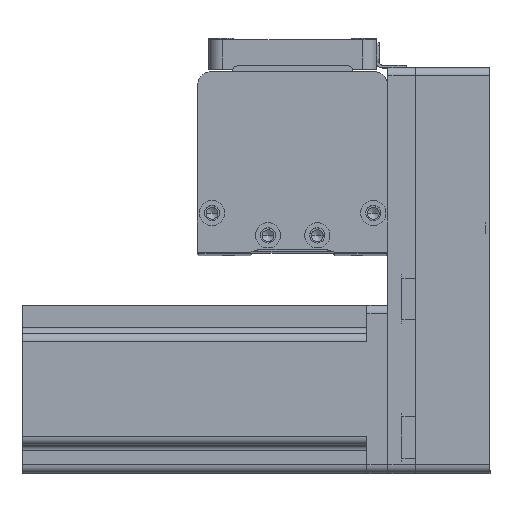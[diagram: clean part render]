
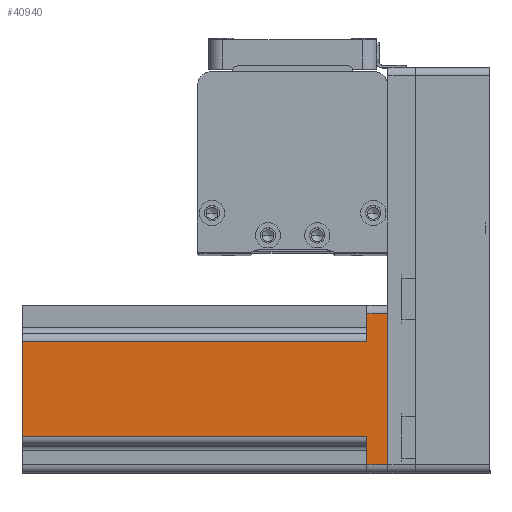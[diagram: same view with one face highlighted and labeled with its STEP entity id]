
A CAD part, top view. The second image highlights one B-rep face of the part: STEP entity #40940.
In plain terms, the highlighted planar face has unit normal (0, 0, 1) as drawn and (0, 1, 0) by its records, which use the part's own axes.
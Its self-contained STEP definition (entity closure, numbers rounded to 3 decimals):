
#113 = VECTOR ( 'NONE', #42871, 1000. ) ;
#570 = CARTESIAN_POINT ( 'NONE',  ( 30., 30., 130.7 ) ) ;
#1118 = EDGE_CURVE ( 'NONE', #28222, #23129, #11562, .T. ) ;
#2826 = ORIENTED_EDGE ( 'NONE', *, *, #21765, .T. ) ;
#3906 = VERTEX_POINT ( 'NONE', #37236 ) ;
#3934 = DIRECTION ( 'NONE',  ( 1., 0., 0. ) ) ;
#4746 = CARTESIAN_POINT ( 'NONE',  ( 27., 30., 130.7 ) ) ;
#5242 = LINE ( 'NONE', #22313, #29565 ) ;
#5835 = DIRECTION ( 'NONE',  ( -1., 0., 0. ) ) ;
#5969 = DIRECTION ( 'NONE',  ( 0., 0., 1. ) ) ;
#6421 = VECTOR ( 'NONE', #34328, 1000. ) ;
#7437 = LINE ( 'NONE', #14545, #6421 ) ;
#8228 = EDGE_CURVE ( 'NONE', #23621, #3906, #39432, .T. ) ;
#10234 = CARTESIAN_POINT ( 'NONE',  ( -17., 30., 7.5 ) ) ;
#10499 = DIRECTION ( 'NONE',  ( 1., 0., 0. ) ) ;
#10538 = EDGE_CURVE ( 'NONE', #23621, #39614, #21950, .T. ) ;
#10767 = VERTEX_POINT ( 'NONE', #35641 ) ;
#11092 = ORIENTED_EDGE ( 'NONE', *, *, #8228, .F. ) ;
#11256 = FACE_OUTER_BOUND ( 'NONE', #37591, .T. ) ;
#11467 = EDGE_CURVE ( 'NONE', #39614, #28222, #34262, .T. ) ;
#11562 = LINE ( 'NONE', #32260, #28093 ) ;
#11748 = CARTESIAN_POINT ( 'NONE',  ( -27., 30., 0. ) ) ;
#12150 = ORIENTED_EDGE ( 'NONE', *, *, #10538, .T. ) ;
#13114 = ORIENTED_EDGE ( 'NONE', *, *, #21710, .T. ) ;
#13189 = VECTOR ( 'NONE', #14580, 1000. ) ;
#13307 = LINE ( 'NONE', #20732, #29876 ) ;
#14246 = EDGE_CURVE ( 'NONE', #10767, #3906, #7437, .T. ) ;
#14545 = CARTESIAN_POINT ( 'NONE',  ( 17., 30., 130.7 ) ) ;
#14580 = DIRECTION ( 'NONE',  ( 0., 0., -1. ) ) ;
#14659 = AXIS2_PLACEMENT_3D ( 'NONE', #570, #23741, #3934 ) ;
#14787 = ORIENTED_EDGE ( 'NONE', *, *, #11467, .T. ) ;
#15077 = DIRECTION ( 'NONE',  ( -1., 0., 0. ) ) ;
#16442 = CARTESIAN_POINT ( 'NONE',  ( -17., 30., 130.7 ) ) ;
#18367 = CARTESIAN_POINT ( 'NONE',  ( 20., 30., 7.5 ) ) ;
#19016 = ORIENTED_EDGE ( 'NONE', *, *, #32666, .F. ) ;
#19201 = CARTESIAN_POINT ( 'NONE',  ( 27., 30., 0. ) ) ;
#19735 = CARTESIAN_POINT ( 'NONE',  ( 30., 30., 0. ) ) ;
#20732 = CARTESIAN_POINT ( 'NONE',  ( -17., 30., 130.7 ) ) ;
#21710 = EDGE_CURVE ( 'NONE', #23129, #33890, #40705, .T. ) ;
#21765 = EDGE_CURVE ( 'NONE', #33890, #27332, #13307, .T. ) ;
#21839 = VECTOR ( 'NONE', #15077, 1000. ) ;
#21950 = LINE ( 'NONE', #4746, #13189 ) ;
#22313 = CARTESIAN_POINT ( 'NONE',  ( 30., 30., 130.7 ) ) ;
#23129 = VERTEX_POINT ( 'NONE', #34890 ) ;
#23137 = VECTOR ( 'NONE', #10499, 1000. ) ;
#23621 = VERTEX_POINT ( 'NONE', #35236 ) ;
#23741 = DIRECTION ( 'NONE',  ( 0., -1., 0. ) ) ;
#24064 = DIRECTION ( 'NONE',  ( 0., 0., 1. ) ) ;
#27332 = VERTEX_POINT ( 'NONE', #16442 ) ;
#28093 = VECTOR ( 'NONE', #5969, 1000. ) ;
#28222 = VERTEX_POINT ( 'NONE', #11748 ) ;
#29565 = VECTOR ( 'NONE', #5835, 1000. ) ;
#29876 = VECTOR ( 'NONE', #24064, 1000. ) ;
#30260 = PLANE ( 'NONE',  #14659 ) ;
#31317 = ORIENTED_EDGE ( 'NONE', *, *, #14246, .T. ) ;
#32260 = CARTESIAN_POINT ( 'NONE',  ( -27., 30., 130.7 ) ) ;
#32666 = EDGE_CURVE ( 'NONE', #10767, #27332, #5242, .T. ) ;
#33619 = CARTESIAN_POINT ( 'NONE',  ( -20., 30., 7.5 ) ) ;
#33890 = VERTEX_POINT ( 'NONE', #10234 ) ;
#34262 = LINE ( 'NONE', #19735, #113 ) ;
#34328 = DIRECTION ( 'NONE',  ( 0., 0., -1. ) ) ;
#34890 = CARTESIAN_POINT ( 'NONE',  ( -27., 30., 7.5 ) ) ;
#35236 = CARTESIAN_POINT ( 'NONE',  ( 27., 30., 7.5 ) ) ;
#35641 = CARTESIAN_POINT ( 'NONE',  ( 17., 30., 130.7 ) ) ;
#37236 = CARTESIAN_POINT ( 'NONE',  ( 17., 30., 7.5 ) ) ;
#37591 = EDGE_LOOP ( 'NONE', ( #13114, #2826, #19016, #31317, #11092, #12150, #14787, #40104 ) ) ;
#39432 = LINE ( 'NONE', #18367, #21839 ) ;
#39614 = VERTEX_POINT ( 'NONE', #19201 ) ;
#40104 = ORIENTED_EDGE ( 'NONE', *, *, #1118, .T. ) ;
#40705 = LINE ( 'NONE', #33619, #23137 ) ;
#40940 = ADVANCED_FACE ( 'NONE', ( #11256 ), #30260, .F. ) ;
#42871 = DIRECTION ( 'NONE',  ( -1., 0., 0. ) ) ;
